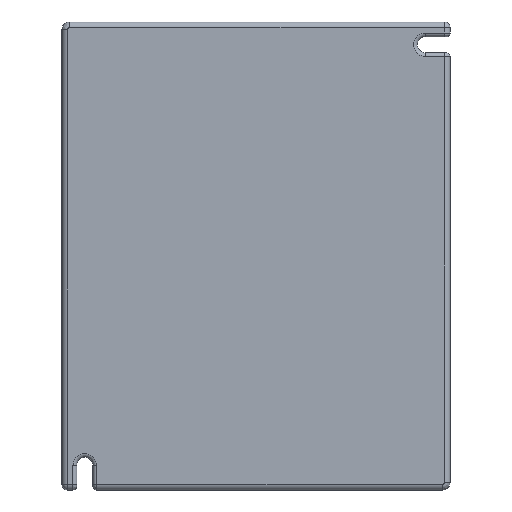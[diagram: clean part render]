
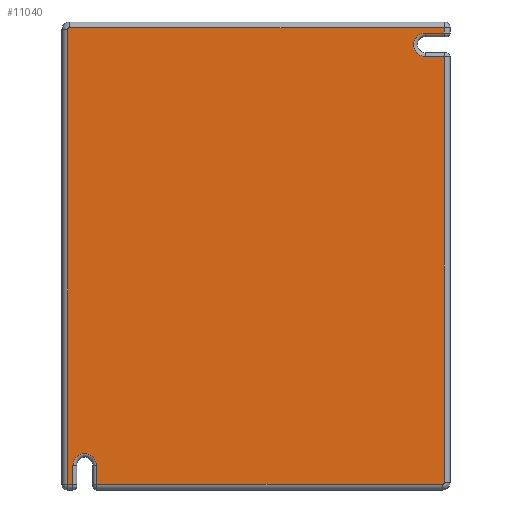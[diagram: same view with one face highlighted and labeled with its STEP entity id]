
A CAD part, front view. The second image highlights one B-rep face of the part: STEP entity #11040.
In plain terms, the highlighted planar face has unit normal (0, -1, 0).
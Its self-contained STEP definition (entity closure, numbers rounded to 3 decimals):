
#74=DIRECTION('',(0.,0.,-1.));
#75=VECTOR('',#74,5.);
#76=CARTESIAN_POINT('',(-41.9,0.,-55.));
#77=LINE('',#76,#75);
#82=CARTESIAN_POINT('',(-45.,0.,-55.));
#83=DIRECTION('',(0.,1.,0.));
#84=DIRECTION('',(-1.,0.,0.));
#85=AXIS2_PLACEMENT_3D('',#82,#83,#84);
#90=DIRECTION('',(0.,0.,1.));
#91=VECTOR('',#90,5.);
#92=CARTESIAN_POINT('',(-48.1,0.,-60.));
#93=LINE('',#92,#91);
#97=DIRECTION('',(1.,0.,0.));
#98=VECTOR('',#97,1.4);
#99=CARTESIAN_POINT('',(-49.5,0.,-60.));
#100=LINE('',#99,#98);
#104=DIRECTION('',(0.,0.,-1.));
#105=VECTOR('',#104,119.5);
#106=CARTESIAN_POINT('',(-49.5,0.,59.5));
#107=LINE('',#106,#105);
#111=CARTESIAN_POINT('',(-49.,0.,59.5));
#112=DIRECTION('',(0.,1.,0.));
#113=DIRECTION('',(-1.,0.,0.));
#114=AXIS2_PLACEMENT_3D('',#111,#112,#113);
#119=DIRECTION('',(-1.,0.,0.));
#120=VECTOR('',#119,98.5);
#121=CARTESIAN_POINT('',(49.5,0.,60.));
#122=LINE('',#121,#120);
#126=DIRECTION('',(0.,0.,1.));
#127=VECTOR('',#126,1.4);
#128=CARTESIAN_POINT('',(49.5,0.,58.6));
#129=LINE('',#128,#127);
#133=DIRECTION('',(1.,0.,0.));
#134=VECTOR('',#133,5.);
#135=CARTESIAN_POINT('',(44.5,0.,58.6));
#136=LINE('',#135,#134);
#140=CARTESIAN_POINT('',(44.5,0.,55.5));
#141=DIRECTION('',(0.,1.,0.));
#142=DIRECTION('',(0.,0.,-1.));
#143=AXIS2_PLACEMENT_3D('',#140,#141,#142);
#148=DIRECTION('',(-1.,0.,0.));
#149=VECTOR('',#148,5.);
#150=CARTESIAN_POINT('',(49.5,0.,52.4));
#151=LINE('',#150,#149);
#155=DIRECTION('',(0.,0.,1.));
#156=VECTOR('',#155,111.9);
#157=CARTESIAN_POINT('',(49.5,0.,-59.5));
#158=LINE('',#157,#156);
#162=CARTESIAN_POINT('',(49.,0.,-59.5));
#163=DIRECTION('',(0.,1.,0.));
#164=DIRECTION('',(1.,0.,0.));
#165=AXIS2_PLACEMENT_3D('',#162,#163,#164);
#170=DIRECTION('',(1.,0.,0.));
#171=VECTOR('',#170,90.9);
#172=CARTESIAN_POINT('',(-41.9,0.,-60.));
#173=LINE('',#172,#171);
#10913=CARTESIAN_POINT('',(-49.,0.,60.));
#10914=VERTEX_POINT('',#10913);
#10915=CARTESIAN_POINT('',(-49.5,0.,59.5));
#10916=VERTEX_POINT('',#10915);
#10917=CARTESIAN_POINT('',(49.,0.,-60.));
#10918=VERTEX_POINT('',#10917);
#10919=CARTESIAN_POINT('',(49.5,0.,-59.5));
#10920=VERTEX_POINT('',#10919);
#10922=CARTESIAN_POINT('',(49.5,0.,60.));
#10924=VERTEX_POINT('',#10922);
#10932=CARTESIAN_POINT('',(-49.5,0.,-60.));
#10934=VERTEX_POINT('',#10932);
#10949=CARTESIAN_POINT('',(-41.9,0.,-60.));
#10950=VERTEX_POINT('',#10949);
#10953=CARTESIAN_POINT('',(-41.9,0.,-55.));
#10954=VERTEX_POINT('',#10953);
#10957=CARTESIAN_POINT('',(-48.1,0.,-55.));
#10958=VERTEX_POINT('',#10957);
#10961=CARTESIAN_POINT('',(-48.1,0.,-60.));
#10962=VERTEX_POINT('',#10961);
#10981=CARTESIAN_POINT('',(49.5,0.,58.6));
#10982=VERTEX_POINT('',#10981);
#10985=CARTESIAN_POINT('',(44.5,0.,58.6));
#10986=VERTEX_POINT('',#10985);
#10989=CARTESIAN_POINT('',(44.5,0.,52.4));
#10990=VERTEX_POINT('',#10989);
#10993=CARTESIAN_POINT('',(49.5,0.,52.4));
#10994=VERTEX_POINT('',#10993);
#11005=CARTESIAN_POINT('',(0.,0.,0.));
#11006=DIRECTION('',(0.,1.,0.));
#11007=DIRECTION('',(1.,0.,0.));
#11008=AXIS2_PLACEMENT_3D('',#11005,#11006,#11007);
#11009=PLANE('',#11008);
#11011=ORIENTED_EDGE('',*,*,#11010,.F.);
#11013=ORIENTED_EDGE('',*,*,#11012,.F.);
#11015=ORIENTED_EDGE('',*,*,#11014,.F.);
#11017=ORIENTED_EDGE('',*,*,#11016,.F.);
#11019=ORIENTED_EDGE('',*,*,#11018,.F.);
#11021=ORIENTED_EDGE('',*,*,#11020,.T.);
#11023=ORIENTED_EDGE('',*,*,#11022,.F.);
#11025=ORIENTED_EDGE('',*,*,#11024,.F.);
#11027=ORIENTED_EDGE('',*,*,#11026,.F.);
#11029=ORIENTED_EDGE('',*,*,#11028,.F.);
#11031=ORIENTED_EDGE('',*,*,#11030,.F.);
#11033=ORIENTED_EDGE('',*,*,#11032,.F.);
#11035=ORIENTED_EDGE('',*,*,#11034,.T.);
#11037=ORIENTED_EDGE('',*,*,#11036,.F.);
#11038=EDGE_LOOP('',(#11011,#11013,#11015,#11017,#11019,#11021,#11023,#11025,
#11027,#11029,#11031,#11033,#11035,#11037));
#11039=FACE_OUTER_BOUND('',#11038,.F.);
#86=CIRCLE('',#85,3.1);
#115=CIRCLE('',#114,0.5);
#144=CIRCLE('',#143,3.1);
#166=CIRCLE('',#165,0.5);
#11010=EDGE_CURVE('',#10954,#10950,#77,.T.);
#11012=EDGE_CURVE('',#10958,#10954,#86,.T.);
#11014=EDGE_CURVE('',#10962,#10958,#93,.T.);
#11016=EDGE_CURVE('',#10934,#10962,#100,.T.);
#11018=EDGE_CURVE('',#10916,#10934,#107,.T.);
#11020=EDGE_CURVE('',#10916,#10914,#115,.T.);
#11022=EDGE_CURVE('',#10924,#10914,#122,.T.);
#11024=EDGE_CURVE('',#10982,#10924,#129,.T.);
#11026=EDGE_CURVE('',#10986,#10982,#136,.T.);
#11028=EDGE_CURVE('',#10990,#10986,#144,.T.);
#11030=EDGE_CURVE('',#10994,#10990,#151,.T.);
#11032=EDGE_CURVE('',#10920,#10994,#158,.T.);
#11034=EDGE_CURVE('',#10920,#10918,#166,.T.);
#11036=EDGE_CURVE('',#10950,#10918,#173,.T.);
#11040=ADVANCED_FACE('',(#11039),#11009,.F.);
